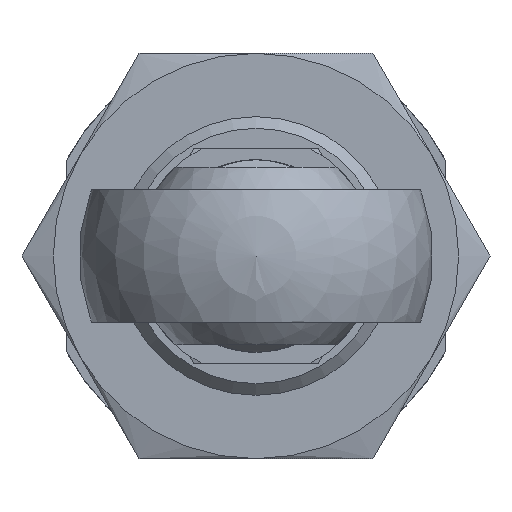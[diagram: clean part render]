
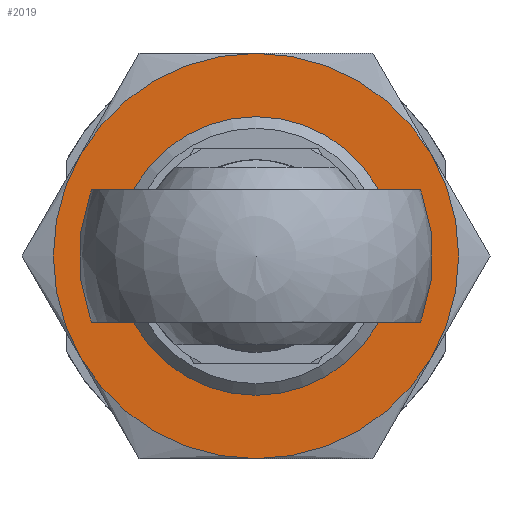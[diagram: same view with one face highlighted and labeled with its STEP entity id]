
A CAD part, left-side view. The second image highlights one B-rep face of the part: STEP entity #2019.
In plain terms, the highlighted planar face has unit normal (-1, 0, 0).
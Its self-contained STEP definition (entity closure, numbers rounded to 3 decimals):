
#120=FACE_BOUND('',#491,.T.);
#233=PLANE('',#2397);
#347=FACE_OUTER_BOUND('',#490,.T.);
#490=EDGE_LOOP('',(#1775,#1776,#1777,#1778,#1779,#1780));
#491=EDGE_LOOP('',(#1781));
#803=CIRCLE('',#2366,16.);
#804=CIRCLE('',#2368,16.);
#805=CIRCLE('',#2370,16.);
#806=CIRCLE('',#2372,16.);
#807=CIRCLE('',#2374,16.);
#808=CIRCLE('',#2376,16.);
#818=CIRCLE('',#2396,11.);
#963=VERTEX_POINT('',#3524);
#969=VERTEX_POINT('',#3545);
#974=VERTEX_POINT('',#3565);
#976=VERTEX_POINT('',#3580);
#980=VERTEX_POINT('',#3598);
#984=VERTEX_POINT('',#3616);
#989=VERTEX_POINT('',#3666);
#1242=EDGE_CURVE('',#980,#976,#803,.T.);
#1243=EDGE_CURVE('',#984,#980,#804,.T.);
#1244=EDGE_CURVE('',#963,#984,#805,.T.);
#1245=EDGE_CURVE('',#974,#963,#806,.T.);
#1246=EDGE_CURVE('',#969,#974,#807,.T.);
#1247=EDGE_CURVE('',#976,#969,#808,.T.);
#1260=EDGE_CURVE('',#989,#989,#818,.T.);
#1775=ORIENTED_EDGE('',*,*,#1243,.F.);
#1776=ORIENTED_EDGE('',*,*,#1244,.F.);
#1777=ORIENTED_EDGE('',*,*,#1245,.F.);
#1778=ORIENTED_EDGE('',*,*,#1246,.F.);
#1779=ORIENTED_EDGE('',*,*,#1247,.F.);
#1780=ORIENTED_EDGE('',*,*,#1242,.F.);
#1781=ORIENTED_EDGE('',*,*,#1260,.T.);
#2019=ADVANCED_FACE('',(#347,#120),#233,.T.);
#2366=AXIS2_PLACEMENT_3D('',#3631,#2876,#2877);
#2368=AXIS2_PLACEMENT_3D('',#3633,#2880,#2881);
#2370=AXIS2_PLACEMENT_3D('',#3635,#2884,#2885);
#2372=AXIS2_PLACEMENT_3D('',#3637,#2888,#2889);
#2374=AXIS2_PLACEMENT_3D('',#3639,#2892,#2893);
#2376=AXIS2_PLACEMENT_3D('',#3641,#2896,#2897);
#2396=AXIS2_PLACEMENT_3D('',#3668,#2939,#2940);
#2397=AXIS2_PLACEMENT_3D('',#3669,#2941,#2942);
#2876=DIRECTION('center_axis',(1.,0.,0.));
#2877=DIRECTION('ref_axis',(0.,0.,-1.));
#2880=DIRECTION('center_axis',(1.,0.,0.));
#2881=DIRECTION('ref_axis',(0.,0.,-1.));
#2884=DIRECTION('center_axis',(1.,0.,0.));
#2885=DIRECTION('ref_axis',(0.,0.,-1.));
#2888=DIRECTION('center_axis',(1.,0.,0.));
#2889=DIRECTION('ref_axis',(0.,0.,-1.));
#2892=DIRECTION('center_axis',(1.,0.,0.));
#2893=DIRECTION('ref_axis',(0.,0.,-1.));
#2896=DIRECTION('center_axis',(1.,0.,0.));
#2897=DIRECTION('ref_axis',(0.,0.,-1.));
#2939=DIRECTION('center_axis',(1.,0.,0.));
#2940=DIRECTION('ref_axis',(0.,0.,-1.));
#2941=DIRECTION('center_axis',(-1.,0.,0.));
#2942=DIRECTION('ref_axis',(0.,0.,1.));
#3524=CARTESIAN_POINT('',(0.,0.,-16.));
#3545=CARTESIAN_POINT('',(0.,-13.856,8.));
#3565=CARTESIAN_POINT('',(0.,-13.856,-8.));
#3580=CARTESIAN_POINT('',(0.,0.,16.));
#3598=CARTESIAN_POINT('',(0.,13.856,8.));
#3616=CARTESIAN_POINT('',(0.,13.856,-8.));
#3631=CARTESIAN_POINT('Origin',(0.,0.,0.));
#3633=CARTESIAN_POINT('Origin',(0.,0.,0.));
#3635=CARTESIAN_POINT('Origin',(0.,0.,0.));
#3637=CARTESIAN_POINT('Origin',(0.,0.,0.));
#3639=CARTESIAN_POINT('Origin',(0.,0.,0.));
#3641=CARTESIAN_POINT('Origin',(0.,0.,0.));
#3666=CARTESIAN_POINT('',(0.,-11.,0.));
#3668=CARTESIAN_POINT('Origin',(0.,0.,0.));
#3669=CARTESIAN_POINT('Origin',(0.,16.,0.));
